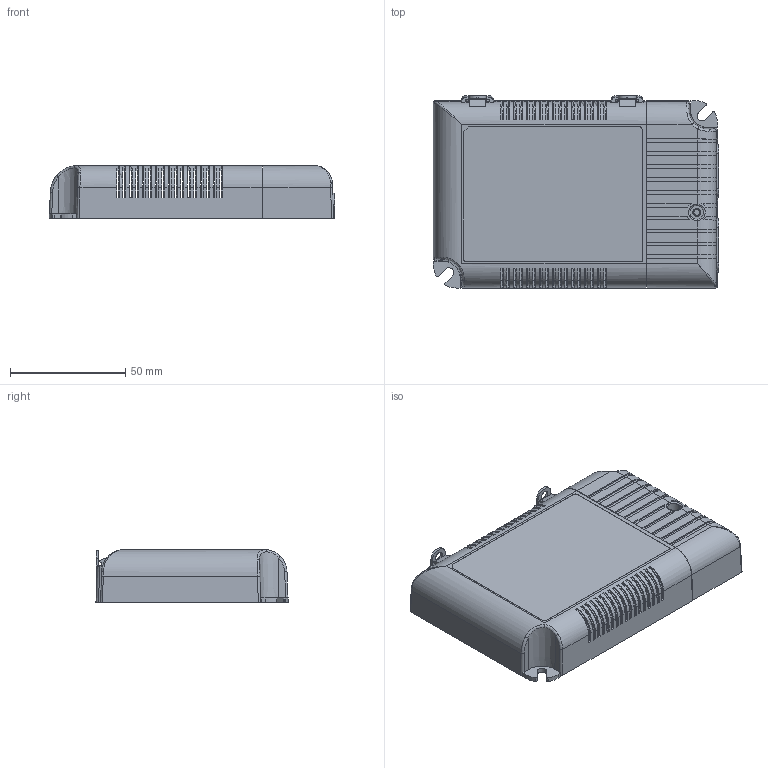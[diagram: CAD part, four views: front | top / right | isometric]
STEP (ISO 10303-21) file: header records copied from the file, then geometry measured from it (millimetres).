
FILE_DESCRIPTION(('OneSpaceDesigner STEP Export'),'2;1');
FILE_NAME('LCM-60-0925.stp','2012-09-25T16:18:44',(''),(''),'OneSpace Designer STEP processor for AP214 (Solid Model)','OneSpace Designer 13.20 11-May-2005 (C) CoCreate Software GmbH','');
FILE_SCHEMA(('AUTOMOTIVE_DESIGN { 1 0 10303 214 1 1 1 1 }'));
Length unit declared in the file: millimetre
Products named in the file (7): ¤W»\µu; ¤W»\ªø; ¤U»\; ¥f¦X»É¬W; ¤U»\L; ÅK¥ó2; LCM-60-0925
Assembly tree (7 placements, depth 3):
  LCM-60-0925
    ÅK¥ó2  x2
    ¤U»\L
      ¥f¦X»É¬W
      ¤U»\
    ¤W»\ªø
    ¤W»\µu
Bounding box: 124 x 83.5 x 23 mm (x, y, z)
Volume: 42380.5 mm3; surface area: 67528.8 mm2
Topology: 6 solids, 6 shells, 1452 faces, 4461 edges, 2961 vertices
Faces by surface type: plane 1067, cylinder 349, bspline 16, torus 11, cone 9
Entity records: 50156 total; most frequent: CARTESIAN_POINT 10868, ORIENTED_EDGE 8678, DIRECTION 7568, EDGE_CURVE 4339, VECTOR 3356, LINE 3356, VERTEX_POINT 2882, AXIS2_PLACEMENT_3D 2106
